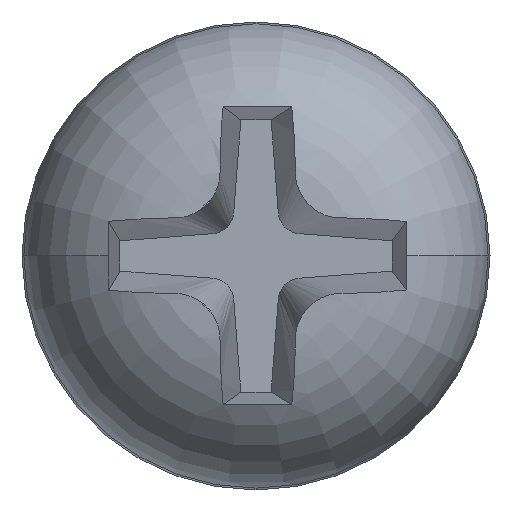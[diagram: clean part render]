
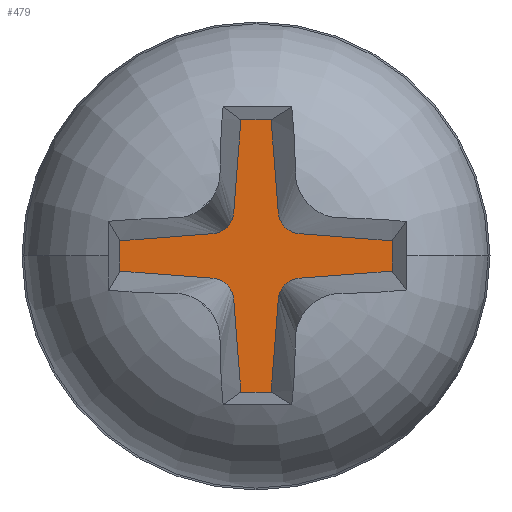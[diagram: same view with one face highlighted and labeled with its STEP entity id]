
A CAD part, top view. The second image highlights one B-rep face of the part: STEP entity #479.
In plain terms, the highlighted planar face has unit normal (0, 0, 1).
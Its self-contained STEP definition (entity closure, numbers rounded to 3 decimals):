
#13 = VERTEX_POINT ( 'NONE', #319 ) ;
#16 = VERTEX_POINT ( 'NONE', #380 ) ;
#20 = CARTESIAN_POINT ( 'NONE',  ( -0.672, 0.672, 0.5 ) ) ;
#22 = DIRECTION ( 'NONE',  ( 0., 0., -1. ) ) ;
#35 = ORIENTED_EDGE ( 'NONE', *, *, #632, .T. ) ;
#37 = LINE ( 'NONE', #703, #512 ) ;
#39 = ORIENTED_EDGE ( 'NONE', *, *, #653, .T. ) ;
#45 = VERTEX_POINT ( 'NONE', #587 ) ;
#47 = LINE ( 'NONE', #52, #400 ) ;
#51 = LINE ( 'NONE', #244, #821 ) ;
#52 = CARTESIAN_POINT ( 'NONE',  ( -0.226, 2.037, 0.5 ) ) ;
#68 = ORIENTED_EDGE ( 'NONE', *, *, #681, .T. ) ;
#81 = ORIENTED_EDGE ( 'NONE', *, *, #415, .T. ) ;
#90 = PLANE ( 'NONE',  #243 ) ;
#92 = CARTESIAN_POINT ( 'NONE',  ( 0.672, -0.672, 0.5 ) ) ;
#97 = LINE ( 'NONE', #574, #747 ) ;
#103 = VERTEX_POINT ( 'NONE', #175 ) ;
#105 = EDGE_CURVE ( 'NONE', #377, #16, #523, .T. ) ;
#106 = DIRECTION ( 'NONE',  ( -0.077, 0.997, 0. ) ) ;
#116 = CARTESIAN_POINT ( 'NONE',  ( 2.037, -0.226, 0.5 ) ) ;
#130 = VERTEX_POINT ( 'NONE', #797 ) ;
#131 = VECTOR ( 'NONE', #406, 1000. ) ;
#146 = LINE ( 'NONE', #623, #715 ) ;
#149 = CARTESIAN_POINT ( 'NONE',  ( -0.333, -0.646, 0.5 ) ) ;
#152 = DIRECTION ( 'NONE',  ( 0., 0., -1. ) ) ;
#156 = AXIS2_PLACEMENT_3D ( 'NONE', #327, #169, #855 ) ;
#162 = EDGE_CURVE ( 'NONE', #869, #848, #47, .T. ) ;
#169 = DIRECTION ( 'NONE',  ( 0., 0., -1. ) ) ;
#174 = CARTESIAN_POINT ( 'NONE',  ( 0.226, 2.037, 0.5 ) ) ;
#175 = CARTESIAN_POINT ( 'NONE',  ( 0.333, 0.646, 0.5 ) ) ;
#188 = ORIENTED_EDGE ( 'NONE', *, *, #694, .T. ) ;
#190 = DIRECTION ( 'NONE',  ( -0.077, -0.997, 0. ) ) ;
#197 = VERTEX_POINT ( 'NONE', #334 ) ;
#204 = ORIENTED_EDGE ( 'NONE', *, *, #753, .T. ) ;
#219 = CARTESIAN_POINT ( 'NONE',  ( -0.226, 2.037, 0.5 ) ) ;
#229 = AXIS2_PLACEMENT_3D ( 'NONE', #238, #22, #843 ) ;
#238 = CARTESIAN_POINT ( 'NONE',  ( -0.672, -0.672, 0.5 ) ) ;
#241 = ORIENTED_EDGE ( 'NONE', *, *, #105, .T. ) ;
#243 = AXIS2_PLACEMENT_3D ( 'NONE', #20, #355, #293 ) ;
#244 = CARTESIAN_POINT ( 'NONE',  ( -0.226, -2.037, 0.5 ) ) ;
#254 = CARTESIAN_POINT ( 'NONE',  ( 0.333, 0.646, 0.5 ) ) ;
#270 = LINE ( 'NONE', #408, #832 ) ;
#282 = ORIENTED_EDGE ( 'NONE', *, *, #162, .T. ) ;
#293 = DIRECTION ( 'NONE',  ( 1., 0., 0. ) ) ;
#296 = CARTESIAN_POINT ( 'NONE',  ( 0.646, 0.333, 0.5 ) ) ;
#309 = ORIENTED_EDGE ( 'NONE', *, *, #859, .T. ) ;
#318 = CARTESIAN_POINT ( 'NONE',  ( -2.037, -0.226, 0.5 ) ) ;
#319 = CARTESIAN_POINT ( 'NONE',  ( -0.646, 0.333, 0.5 ) ) ;
#327 = CARTESIAN_POINT ( 'NONE',  ( 0.672, 0.672, 0.5 ) ) ;
#334 = CARTESIAN_POINT ( 'NONE',  ( 0.646, -0.333, 0.5 ) ) ;
#339 = DIRECTION ( 'NONE',  ( 0., 1., 0. ) ) ;
#355 = DIRECTION ( 'NONE',  ( 0., 0., 1. ) ) ;
#363 = CARTESIAN_POINT ( 'NONE',  ( -0.333, 0.646, 0.5 ) ) ;
#365 = VERTEX_POINT ( 'NONE', #656 ) ;
#367 = EDGE_LOOP ( 'NONE', ( #188, #39, #282, #309, #467, #81, #663, #854, #241, #68, #204, #541, #860, #851, #810, #35 ) ) ;
#374 = VERTEX_POINT ( 'NONE', #520 ) ;
#377 = VERTEX_POINT ( 'NONE', #149 ) ;
#380 = CARTESIAN_POINT ( 'NONE',  ( -0.226, -2.037, 0.5 ) ) ;
#394 = DIRECTION ( 'NONE',  ( 1., 0., 0. ) ) ;
#400 = VECTOR ( 'NONE', #190, 1000. ) ;
#402 = VECTOR ( 'NONE', #757, 1000. ) ;
#405 = EDGE_CURVE ( 'NONE', #594, #738, #146, .T. ) ;
#406 = DIRECTION ( 'NONE',  ( 0.997, -0.077, 0. ) ) ;
#408 = CARTESIAN_POINT ( 'NONE',  ( -2.037, 0.226, 0.5 ) ) ;
#410 = CARTESIAN_POINT ( 'NONE',  ( 2.037, 0.226, 0.5 ) ) ;
#415 = EDGE_CURVE ( 'NONE', #374, #686, #270, .T. ) ;
#418 = CARTESIAN_POINT ( 'NONE',  ( 0.226, -2.037, 0.5 ) ) ;
#426 = DIRECTION ( 'NONE',  ( 1., 0., 0. ) ) ;
#433 = VERTEX_POINT ( 'NONE', #704 ) ;
#441 = LINE ( 'NONE', #174, #496 ) ;
#464 = LINE ( 'NONE', #418, #402 ) ;
#467 = ORIENTED_EDGE ( 'NONE', *, *, #865, .T. ) ;
#476 = DIRECTION ( 'NONE',  ( 0., -1., 0. ) ) ;
#479 = ADVANCED_FACE ( 'NONE', ( #707 ), #90, .T. ) ;
#496 = VECTOR ( 'NONE', #664, 1000. ) ;
#502 = EDGE_CURVE ( 'NONE', #197, #594, #97, .T. ) ;
#504 = EDGE_CURVE ( 'NONE', #45, #377, #772, .T. ) ;
#512 = VECTOR ( 'NONE', #553, 1000. ) ;
#520 = CARTESIAN_POINT ( 'NONE',  ( -2.037, 0.226, 0.5 ) ) ;
#523 = LINE ( 'NONE', #801, #803 ) ;
#541 = ORIENTED_EDGE ( 'NONE', *, *, #561, .T. ) ;
#544 = AXIS2_PLACEMENT_3D ( 'NONE', #558, #644, #426 ) ;
#549 = VERTEX_POINT ( 'NONE', #296 ) ;
#553 = DIRECTION ( 'NONE',  ( -0.997, -0.077, 0. ) ) ;
#558 = CARTESIAN_POINT ( 'NONE',  ( -0.672, 0.672, 0.5 ) ) ;
#561 = EDGE_CURVE ( 'NONE', #433, #197, #616, .T. ) ;
#574 = CARTESIAN_POINT ( 'NONE',  ( 0.646, -0.333, 0.5 ) ) ;
#587 = CARTESIAN_POINT ( 'NONE',  ( -0.646, -0.333, 0.5 ) ) ;
#591 = LINE ( 'NONE', #254, #858 ) ;
#594 = VERTEX_POINT ( 'NONE', #116 ) ;
#616 = CIRCLE ( 'NONE', #805, 0.339 ) ;
#623 = CARTESIAN_POINT ( 'NONE',  ( 2.037, -0.226, 0.5 ) ) ;
#632 = EDGE_CURVE ( 'NONE', #549, #103, #642, .T. ) ;
#638 = DIRECTION ( 'NONE',  ( 1., 0., 0. ) ) ;
#642 = CIRCLE ( 'NONE', #156, 0.339 ) ;
#644 = DIRECTION ( 'NONE',  ( 0., 0., -1. ) ) ;
#653 = EDGE_CURVE ( 'NONE', #365, #869, #441, .T. ) ;
#656 = CARTESIAN_POINT ( 'NONE',  ( 0.226, 2.037, 0.5 ) ) ;
#663 = ORIENTED_EDGE ( 'NONE', *, *, #787, .T. ) ;
#664 = DIRECTION ( 'NONE',  ( -1., 0., 0. ) ) ;
#669 = EDGE_CURVE ( 'NONE', #738, #549, #728, .T. ) ;
#675 = LINE ( 'NONE', #826, #131 ) ;
#681 = EDGE_CURVE ( 'NONE', #16, #130, #51, .T. ) ;
#686 = VERTEX_POINT ( 'NONE', #318 ) ;
#694 = EDGE_CURVE ( 'NONE', #103, #365, #591, .T. ) ;
#703 = CARTESIAN_POINT ( 'NONE',  ( -0.646, 0.333, 0.5 ) ) ;
#704 = CARTESIAN_POINT ( 'NONE',  ( 0.333, -0.646, 0.5 ) ) ;
#707 = FACE_OUTER_BOUND ( 'NONE', #367, .T. ) ;
#715 = VECTOR ( 'NONE', #339, 1000. ) ;
#728 = LINE ( 'NONE', #866, #762 ) ;
#734 = DIRECTION ( 'NONE',  ( -0.997, 0.077, 0. ) ) ;
#738 = VERTEX_POINT ( 'NONE', #410 ) ;
#747 = VECTOR ( 'NONE', #849, 1000. ) ;
#753 = EDGE_CURVE ( 'NONE', #130, #433, #464, .T. ) ;
#757 = DIRECTION ( 'NONE',  ( 0.077, 0.997, 0. ) ) ;
#762 = VECTOR ( 'NONE', #734, 1000. ) ;
#772 = CIRCLE ( 'NONE', #229, 0.339 ) ;
#787 = EDGE_CURVE ( 'NONE', #686, #45, #675, .T. ) ;
#797 = CARTESIAN_POINT ( 'NONE',  ( 0.226, -2.037, 0.5 ) ) ;
#801 = CARTESIAN_POINT ( 'NONE',  ( -0.333, -0.646, 0.5 ) ) ;
#803 = VECTOR ( 'NONE', #871, 1000. ) ;
#805 = AXIS2_PLACEMENT_3D ( 'NONE', #92, #152, #638 ) ;
#810 = ORIENTED_EDGE ( 'NONE', *, *, #669, .T. ) ;
#821 = VECTOR ( 'NONE', #394, 1000. ) ;
#826 = CARTESIAN_POINT ( 'NONE',  ( -2.037, -0.226, 0.5 ) ) ;
#832 = VECTOR ( 'NONE', #476, 1000. ) ;
#843 = DIRECTION ( 'NONE',  ( 1., 0., 0. ) ) ;
#848 = VERTEX_POINT ( 'NONE', #363 ) ;
#849 = DIRECTION ( 'NONE',  ( 0.997, 0.077, 0. ) ) ;
#851 = ORIENTED_EDGE ( 'NONE', *, *, #405, .T. ) ;
#854 = ORIENTED_EDGE ( 'NONE', *, *, #504, .T. ) ;
#855 = DIRECTION ( 'NONE',  ( 1., 0., 0. ) ) ;
#858 = VECTOR ( 'NONE', #106, 1000. ) ;
#859 = EDGE_CURVE ( 'NONE', #848, #13, #875, .T. ) ;
#860 = ORIENTED_EDGE ( 'NONE', *, *, #502, .T. ) ;
#865 = EDGE_CURVE ( 'NONE', #13, #374, #37, .T. ) ;
#866 = CARTESIAN_POINT ( 'NONE',  ( 2.037, 0.226, 0.5 ) ) ;
#869 = VERTEX_POINT ( 'NONE', #219 ) ;
#871 = DIRECTION ( 'NONE',  ( 0.077, -0.997, 0. ) ) ;
#875 = CIRCLE ( 'NONE', #544, 0.339 ) ;
